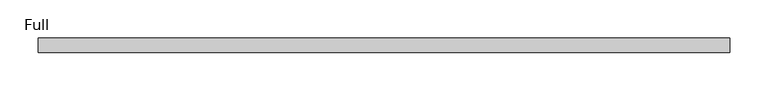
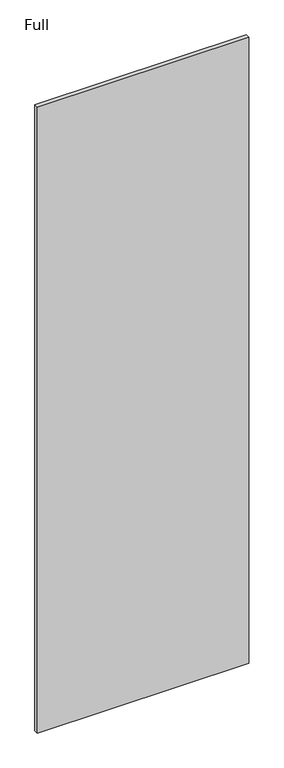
"""IFC4 building model written with IfcOpenShell, lengths in millimetres: proxy geometry, Panel-Fascia-Teknion-Altos-Standard : Full."""

from ifc_helpers import new_model, si_unit, frame, origin, place, context, project, spatial, polyline, outline, extrude, source, transform, mapped, element, save


def full_db0fc0de(model_context):
    return source(origin(), model_context, "Body", "SweptSolid", [
        extrude(outline(polyline([(454.025, 9.525), (454.025, -9.525), (-454.025, -9.525), (-454.025, 9.525), (454.025, 9.525)])), frame((0.0, 0.0, 3.175), z_axis=(0.0, 0.0, 1.0), x_axis=(1.0, 0.0, 0.0)), (0.0, 0.0, 1.0), 2840.736),
    ])


if __name__ == "__main__":
    model = new_model("IFC4")
    model_context = context("Model", 3, world=origin())
    ifc_project = project(units=[si_unit("LENGTHUNIT", "METRE", prefix="MILLI")], contexts=[model_context])
    site = spatial("IfcSite", under=ifc_project)
    building = spatial("IfcBuilding", under=site)
    placement = place(None, origin())
    full_shape = full_db0fc0de(model_context)
    element("IfcBuildingElementProxy", 1, Name="Panel-Fascia-Teknion-Altos-Standard : Full", ObjectType="Panel-Fascia-Teknion-Altos-Standard : Full", at=placement, inside=building, context=model_context, shape_type="MappedRepresentation", body=[
        mapped(full_shape, transform((0.0, 0.0, 0.0), x_axis=(1.0, 0.0, 0.0), y_axis=(0.0, 1.0, 0.0), z_axis=(0.0, 0.0, 1.0))),
    ])
    save(model, "model.ifc")
